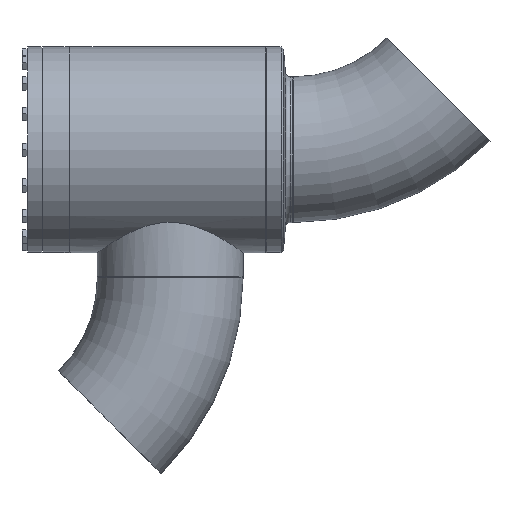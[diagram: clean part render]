
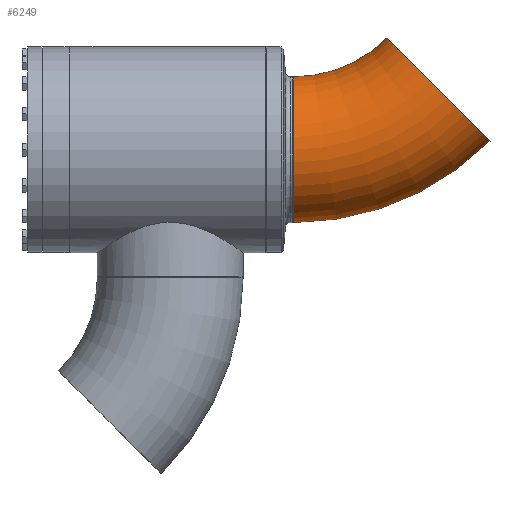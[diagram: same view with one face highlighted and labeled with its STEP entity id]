
A CAD part, left-side view. The second image highlights one B-rep face of the part: STEP entity #6249.
In plain terms, the highlighted toroidal (fillet/blend) face has major radius 457 mm and minor radius 161.95 mm.
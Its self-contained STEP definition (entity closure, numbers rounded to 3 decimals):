
#1804 = VERTEX_POINT ( 'NONE', #4858 ) ;
#2109 = VERTEX_POINT ( 'NONE', #7170 ) ;
#2120 = EDGE_CURVE ( 'NONE', #2797, #2109, #7376, .T. ) ;
#2311 = EDGE_CURVE ( 'NONE', #2482, #2109, #4218, .T. ) ;
#2339 = ORIENTED_EDGE ( 'NONE', *, *, #2311, .T. ) ;
#2384 = ORIENTED_EDGE ( 'NONE', *, *, #2657, .T. ) ;
#2482 = VERTEX_POINT ( 'NONE', #7171 ) ;
#2657 = EDGE_CURVE ( 'NONE', #1804, #2482, #3750, .T. ) ;
#2797 = VERTEX_POINT ( 'NONE', #5778 ) ;
#3750 = CIRCLE ( 'NONE', #3751, 295.05 ) ;
#3751 = AXIS2_PLACEMENT_3D ( 'NONE', #3752, #3753, #3754 ) ;
#3752 = CARTESIAN_POINT ( 'NONE',  ( 0., -457., 0. ) ) ;
#3753 = DIRECTION ( 'NONE',  ( 0., 0., 1. ) ) ;
#3754 = DIRECTION ( 'NONE',  ( 1., 0., 0. ) ) ;
#4218 = CIRCLE ( 'NONE', #4219, 161.95 ) ;
#4219 = AXIS2_PLACEMENT_3D ( 'NONE', #4220, #4221, #4222 ) ;
#4220 = CARTESIAN_POINT ( 'NONE',  ( 0., 0., 0. ) ) ;
#4221 = DIRECTION ( 'NONE',  ( 1., 0., 0. ) ) ;
#4222 = DIRECTION ( 'NONE',  ( 0., 0., -1. ) ) ;
#4297 = CIRCLE ( 'NONE', #4298, 161.95 ) ;
#4298 = AXIS2_PLACEMENT_3D ( 'NONE', #4299, #4300, #4301 ) ;
#4299 = CARTESIAN_POINT ( 'NONE',  ( 323.148, -133.852, 0. ) ) ;
#4300 = DIRECTION ( 'NONE',  ( 0.707, -0.707, 0. ) ) ;
#4301 = DIRECTION ( 'NONE',  ( 0., 0., -1. ) ) ;
#4695 = EDGE_CURVE ( 'NONE', #1804, #2797, #4297, .T. ) ;
#4858 = CARTESIAN_POINT ( 'NONE',  ( 208.632, -248.368, 0. ) ) ;
#5046 = ORIENTED_EDGE ( 'NONE', *, *, #4695, .F. ) ;
#5531 = ORIENTED_EDGE ( 'NONE', *, *, #2120, .F. ) ;
#5778 = CARTESIAN_POINT ( 'NONE',  ( 437.664, -19.336, 0. ) ) ;
#6018 = EDGE_LOOP ( 'NONE', ( #5531, #5046, #2384, #2339 ) ) ;
#6249 = ADVANCED_FACE ( 'NONE', ( #6489 ), #6491, .T. ) ;
#6489 = FACE_OUTER_BOUND ( 'NONE', #6018, .T. ) ;
#6491 = TOROIDAL_SURFACE ( 'NONE', #6492, 457., 161.95 ) ;
#6492 = AXIS2_PLACEMENT_3D ( 'NONE', #6493, #6494, #6495 ) ;
#6493 = CARTESIAN_POINT ( 'NONE',  ( 0., -457., 0. ) ) ;
#6494 = DIRECTION ( 'NONE',  ( 0., 0., 1. ) ) ;
#6495 = DIRECTION ( 'NONE',  ( 1., 0., 0. ) ) ;
#7170 = CARTESIAN_POINT ( 'NONE',  ( 0., 161.95, 0. ) ) ;
#7171 = CARTESIAN_POINT ( 'NONE',  ( 0., -161.95, 0. ) ) ;
#7376 = CIRCLE ( 'NONE', #7377, 618.95 ) ;
#7377 = AXIS2_PLACEMENT_3D ( 'NONE', #7378, #7379, #7380 ) ;
#7378 = CARTESIAN_POINT ( 'NONE',  ( 0., -457., 0. ) ) ;
#7379 = DIRECTION ( 'NONE',  ( 0., 0., 1. ) ) ;
#7380 = DIRECTION ( 'NONE',  ( 1., 0., 0. ) ) ;
